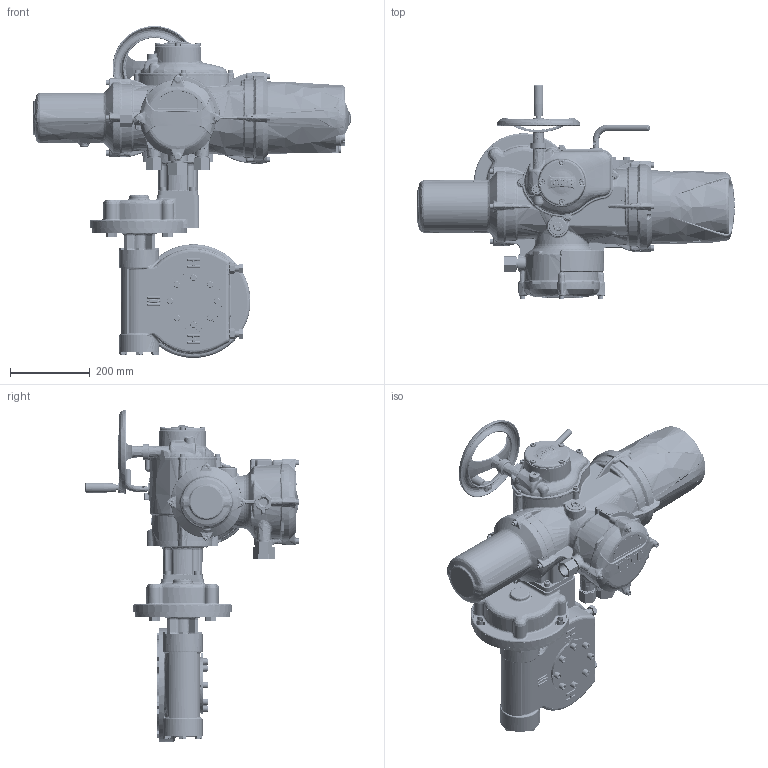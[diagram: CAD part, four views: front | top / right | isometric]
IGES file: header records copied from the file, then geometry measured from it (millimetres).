
Start section: C
Global section: file name: II2SHWIWD5RHSTD-1.igs; native system: By Siemens PLM Incorporated; preprocessor: XPlus GENERIC/IGES 17.0.49; author: Author; organization: Title; date: 20150721.085658; units: millimetre
Bounding box: 795.75 x 537.85 x 832.19 mm (x, y, z)
Surface area: 1710620.3 mm2 (no closed solid volume)
Topology: 0 solids, 0 shells, 7653 faces, 41162 edges, 40796 vertices
Faces by surface type: bspline 7653
